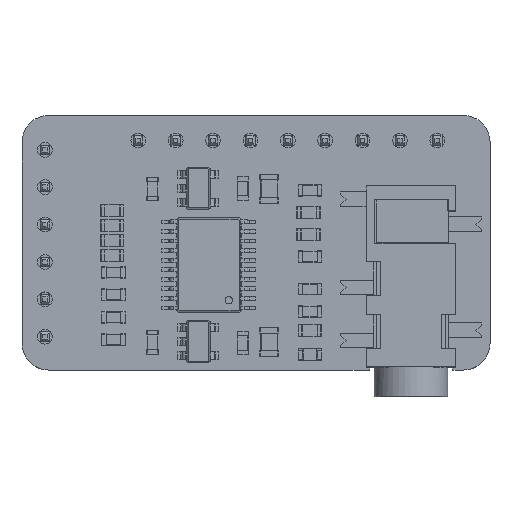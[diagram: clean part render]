
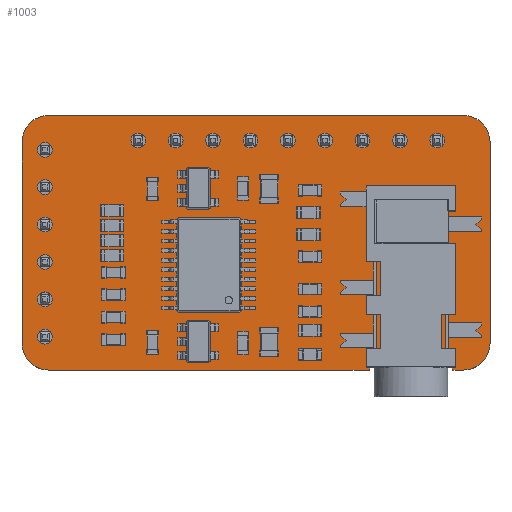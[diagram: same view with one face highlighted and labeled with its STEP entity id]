
A CAD part, top view. The second image highlights one B-rep face of the part: STEP entity #1003.
In plain terms, the highlighted planar face has unit normal (0, 0, 1).
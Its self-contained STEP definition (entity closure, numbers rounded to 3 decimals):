
#67 = VERTEX_POINT('',#68);
#68 = CARTESIAN_POINT('',(164.87,-89.635,0.));
#85 = VERTEX_POINT('',#86);
#86 = CARTESIAN_POINT('',(164.87,-103.335,0.));
#92 = EDGE_CURVE('',#67,#85,#93,.T.);
#93 = LINE('',#94,#95);
#94 = CARTESIAN_POINT('',(164.87,-89.635,0.));
#95 = VECTOR('',#96,1.);
#96 = DIRECTION('',(0.,-1.,0.));
#107 = VERTEX_POINT('',#108);
#108 = CARTESIAN_POINT('',(163.07,-87.835,0.));
#124 = EDGE_CURVE('',#107,#67,#125,.T.);
#125 = CIRCLE('',#126,1.8);
#126 = AXIS2_PLACEMENT_3D('',#127,#128,#129);
#127 = CARTESIAN_POINT('',(163.07,-89.635,0.));
#128 = DIRECTION('',(0.,0.,-1.));
#129 = DIRECTION('',(0.,1.,0.));
#150 = VERTEX_POINT('',#151);
#151 = CARTESIAN_POINT('',(163.07,-105.135,0.));
#157 = EDGE_CURVE('',#85,#150,#158,.T.);
#158 = CIRCLE('',#159,1.8);
#159 = AXIS2_PLACEMENT_3D('',#160,#161,#162);
#160 = CARTESIAN_POINT('',(163.07,-103.335,0.));
#161 = DIRECTION('',(0.,0.,-1.));
#162 = DIRECTION('',(1.,0.,0.));
#173 = VERTEX_POINT('',#174);
#174 = CARTESIAN_POINT('',(134.87,-87.835,0.));
#189 = EDGE_CURVE('',#173,#107,#190,.T.);
#190 = LINE('',#191,#192);
#191 = CARTESIAN_POINT('',(134.87,-87.835,0.));
#192 = VECTOR('',#193,1.);
#193 = DIRECTION('',(1.,0.,0.));
#213 = VERTEX_POINT('',#214);
#214 = CARTESIAN_POINT('',(162.35,-105.135,0.));
#220 = EDGE_CURVE('',#150,#213,#221,.T.);
#221 = LINE('',#222,#223);
#222 = CARTESIAN_POINT('',(163.07,-105.135,0.));
#223 = VECTOR('',#224,1.);
#224 = DIRECTION('',(-1.,0.,0.));
#235 = VERTEX_POINT('',#236);
#236 = CARTESIAN_POINT('',(133.07,-89.635,0.));
#252 = EDGE_CURVE('',#235,#173,#253,.T.);
#253 = CIRCLE('',#254,1.8);
#254 = AXIS2_PLACEMENT_3D('',#255,#256,#257);
#255 = CARTESIAN_POINT('',(134.87,-89.635,0.));
#256 = DIRECTION('',(0.,0.,-1.));
#257 = DIRECTION('',(-1.,0.,0.));
#277 = VERTEX_POINT('',#278);
#278 = CARTESIAN_POINT('',(162.,-104.135,0.));
#284 = EDGE_CURVE('',#213,#277,#285,.T.);
#285 = LINE('',#286,#287);
#286 = CARTESIAN_POINT('',(162.35,-105.135,0.));
#287 = VECTOR('',#288,1.);
#288 = DIRECTION('',(-0.33,0.944,0.));
#299 = VERTEX_POINT('',#300);
#300 = CARTESIAN_POINT('',(133.07,-103.335,0.));
#315 = EDGE_CURVE('',#299,#235,#316,.T.);
#316 = LINE('',#317,#318);
#317 = CARTESIAN_POINT('',(133.07,-103.335,0.));
#318 = VECTOR('',#319,1.);
#319 = DIRECTION('',(0.,1.,0.));
#339 = VERTEX_POINT('',#340);
#340 = CARTESIAN_POINT('',(157.,-104.135,0.));
#346 = EDGE_CURVE('',#277,#339,#347,.T.);
#347 = LINE('',#348,#349);
#348 = CARTESIAN_POINT('',(162.,-104.135,0.));
#349 = VECTOR('',#350,1.);
#350 = DIRECTION('',(-1.,0.,0.));
#361 = VERTEX_POINT('',#362);
#362 = CARTESIAN_POINT('',(134.87,-105.135,0.));
#378 = EDGE_CURVE('',#361,#299,#379,.T.);
#379 = CIRCLE('',#380,1.8);
#380 = AXIS2_PLACEMENT_3D('',#381,#382,#383);
#381 = CARTESIAN_POINT('',(134.87,-103.335,0.));
#382 = DIRECTION('',(0.,0.,-1.));
#383 = DIRECTION('',(0.,-1.,-0.));
#403 = VERTEX_POINT('',#404);
#404 = CARTESIAN_POINT('',(156.65,-105.135,0.));
#410 = EDGE_CURVE('',#339,#403,#411,.T.);
#411 = LINE('',#412,#413);
#412 = CARTESIAN_POINT('',(157.,-104.135,0.));
#413 = VECTOR('',#414,1.);
#414 = DIRECTION('',(-0.33,-0.944,0.));
#432 = EDGE_CURVE('',#403,#361,#433,.T.);
#433 = LINE('',#434,#435);
#434 = CARTESIAN_POINT('',(156.65,-105.135,0.));
#435 = VECTOR('',#436,1.);
#436 = DIRECTION('',(-1.,0.,0.));
#447 = VERTEX_POINT('',#448);
#448 = CARTESIAN_POINT('',(160.05,-101.935,0.));
#464 = EDGE_CURVE('',#447,#447,#465,.T.);
#465 = CIRCLE('',#466,0.55);
#466 = AXIS2_PLACEMENT_3D('',#467,#468,#469);
#467 = CARTESIAN_POINT('',(159.5,-101.935,0.));
#468 = DIRECTION('',(0.,0.,1.));
#469 = DIRECTION('',(1.,0.,-0.));
#480 = VERTEX_POINT('',#481);
#481 = CARTESIAN_POINT('',(135.12,-102.87,0.));
#497 = EDGE_CURVE('',#480,#480,#498,.T.);
#498 = CIRCLE('',#499,0.5);
#499 = AXIS2_PLACEMENT_3D('',#500,#501,#502);
#500 = CARTESIAN_POINT('',(134.62,-102.87,0.));
#501 = DIRECTION('',(0.,0.,1.));
#502 = DIRECTION('',(1.,0.,-0.));
#513 = VERTEX_POINT('',#514);
#514 = CARTESIAN_POINT('',(135.12,-100.33,0.));
#530 = EDGE_CURVE('',#513,#513,#531,.T.);
#531 = CIRCLE('',#532,0.5);
#532 = AXIS2_PLACEMENT_3D('',#533,#534,#535);
#533 = CARTESIAN_POINT('',(134.62,-100.33,0.));
#534 = DIRECTION('',(0.,0.,1.));
#535 = DIRECTION('',(1.,0.,-0.));
#546 = VERTEX_POINT('',#547);
#547 = CARTESIAN_POINT('',(135.12,-97.79,0.));
#563 = EDGE_CURVE('',#546,#546,#564,.T.);
#564 = CIRCLE('',#565,0.5);
#565 = AXIS2_PLACEMENT_3D('',#566,#567,#568);
#566 = CARTESIAN_POINT('',(134.62,-97.79,0.));
#567 = DIRECTION('',(0.,0.,1.));
#568 = DIRECTION('',(1.,0.,-0.));
#579 = VERTEX_POINT('',#580);
#580 = CARTESIAN_POINT('',(160.05,-95.935,0.));
#596 = EDGE_CURVE('',#579,#579,#597,.T.);
#597 = CIRCLE('',#598,0.55);
#598 = AXIS2_PLACEMENT_3D('',#599,#600,#601);
#599 = CARTESIAN_POINT('',(159.5,-95.935,0.));
#600 = DIRECTION('',(0.,0.,1.));
#601 = DIRECTION('',(1.,0.,-0.));
#612 = VERTEX_POINT('',#613);
#613 = CARTESIAN_POINT('',(161.79,-89.535,0.));
#629 = EDGE_CURVE('',#612,#612,#630,.T.);
#630 = CIRCLE('',#631,0.5);
#631 = AXIS2_PLACEMENT_3D('',#632,#633,#634);
#632 = CARTESIAN_POINT('',(161.29,-89.535,0.));
#633 = DIRECTION('',(0.,0.,1.));
#634 = DIRECTION('',(1.,0.,-0.));
#645 = VERTEX_POINT('',#646);
#646 = CARTESIAN_POINT('',(159.25,-89.535,0.));
#662 = EDGE_CURVE('',#645,#645,#663,.T.);
#663 = CIRCLE('',#664,0.5);
#664 = AXIS2_PLACEMENT_3D('',#665,#666,#667);
#665 = CARTESIAN_POINT('',(158.75,-89.535,0.));
#666 = DIRECTION('',(0.,0.,1.));
#667 = DIRECTION('',(1.,0.,-0.));
#678 = VERTEX_POINT('',#679);
#679 = CARTESIAN_POINT('',(156.71,-89.535,0.));
#695 = EDGE_CURVE('',#678,#678,#696,.T.);
#696 = CIRCLE('',#697,0.5);
#697 = AXIS2_PLACEMENT_3D('',#698,#699,#700);
#698 = CARTESIAN_POINT('',(156.21,-89.535,0.));
#699 = DIRECTION('',(0.,0.,1.));
#700 = DIRECTION('',(1.,0.,-0.));
#711 = VERTEX_POINT('',#712);
#712 = CARTESIAN_POINT('',(154.17,-89.535,0.));
#728 = EDGE_CURVE('',#711,#711,#729,.T.);
#729 = CIRCLE('',#730,0.5);
#730 = AXIS2_PLACEMENT_3D('',#731,#732,#733);
#731 = CARTESIAN_POINT('',(153.67,-89.535,0.));
#732 = DIRECTION('',(0.,0.,1.));
#733 = DIRECTION('',(1.,0.,-0.));
#744 = VERTEX_POINT('',#745);
#745 = CARTESIAN_POINT('',(151.63,-89.535,0.));
#761 = EDGE_CURVE('',#744,#744,#762,.T.);
#762 = CIRCLE('',#763,0.5);
#763 = AXIS2_PLACEMENT_3D('',#764,#765,#766);
#764 = CARTESIAN_POINT('',(151.13,-89.535,0.));
#765 = DIRECTION('',(0.,0.,1.));
#766 = DIRECTION('',(1.,0.,-0.));
#777 = VERTEX_POINT('',#778);
#778 = CARTESIAN_POINT('',(149.09,-89.535,0.));
#794 = EDGE_CURVE('',#777,#777,#795,.T.);
#795 = CIRCLE('',#796,0.5);
#796 = AXIS2_PLACEMENT_3D('',#797,#798,#799);
#797 = CARTESIAN_POINT('',(148.59,-89.535,0.));
#798 = DIRECTION('',(0.,0.,1.));
#799 = DIRECTION('',(1.,0.,-0.));
#810 = VERTEX_POINT('',#811);
#811 = CARTESIAN_POINT('',(135.12,-95.25,0.));
#827 = EDGE_CURVE('',#810,#810,#828,.T.);
#828 = CIRCLE('',#829,0.5);
#829 = AXIS2_PLACEMENT_3D('',#830,#831,#832);
#830 = CARTESIAN_POINT('',(134.62,-95.25,0.));
#831 = DIRECTION('',(0.,0.,1.));
#832 = DIRECTION('',(1.,0.,-0.));
#843 = VERTEX_POINT('',#844);
#844 = CARTESIAN_POINT('',(135.12,-92.71,0.));
#860 = EDGE_CURVE('',#843,#843,#861,.T.);
#861 = CIRCLE('',#862,0.5);
#862 = AXIS2_PLACEMENT_3D('',#863,#864,#865);
#863 = CARTESIAN_POINT('',(134.62,-92.71,0.));
#864 = DIRECTION('',(0.,0.,1.));
#865 = DIRECTION('',(1.,0.,-0.));
#876 = VERTEX_POINT('',#877);
#877 = CARTESIAN_POINT('',(146.55,-89.535,0.));
#893 = EDGE_CURVE('',#876,#876,#894,.T.);
#894 = CIRCLE('',#895,0.5);
#895 = AXIS2_PLACEMENT_3D('',#896,#897,#898);
#896 = CARTESIAN_POINT('',(146.05,-89.535,0.));
#897 = DIRECTION('',(0.,0.,1.));
#898 = DIRECTION('',(1.,0.,-0.));
#909 = VERTEX_POINT('',#910);
#910 = CARTESIAN_POINT('',(144.01,-89.535,0.));
#926 = EDGE_CURVE('',#909,#909,#927,.T.);
#927 = CIRCLE('',#928,0.5);
#928 = AXIS2_PLACEMENT_3D('',#929,#930,#931);
#929 = CARTESIAN_POINT('',(143.51,-89.535,0.));
#930 = DIRECTION('',(0.,0.,1.));
#931 = DIRECTION('',(1.,0.,-0.));
#942 = VERTEX_POINT('',#943);
#943 = CARTESIAN_POINT('',(141.47,-89.535,0.));
#959 = EDGE_CURVE('',#942,#942,#960,.T.);
#960 = CIRCLE('',#961,0.5);
#961 = AXIS2_PLACEMENT_3D('',#962,#963,#964);
#962 = CARTESIAN_POINT('',(140.97,-89.535,0.));
#963 = DIRECTION('',(0.,0.,1.));
#964 = DIRECTION('',(1.,0.,-0.));
#975 = VERTEX_POINT('',#976);
#976 = CARTESIAN_POINT('',(135.12,-90.17,0.));
#992 = EDGE_CURVE('',#975,#975,#993,.T.);
#993 = CIRCLE('',#994,0.5);
#994 = AXIS2_PLACEMENT_3D('',#995,#996,#997);
#995 = CARTESIAN_POINT('',(134.62,-90.17,0.));
#996 = DIRECTION('',(0.,0.,1.));
#997 = DIRECTION('',(1.,0.,-0.));
#1003 = ADVANCED_FACE('',(#1004,#1018,#1021,#1024,#1027,#1030,#1033,
    #1036,#1039,#1042,#1045,#1048,#1051,#1054,#1057,#1060,#1063,#1066),
  #1069,.F.);
#1004 = FACE_BOUND('',#1005,.F.);
#1005 = EDGE_LOOP('',(#1006,#1007,#1008,#1009,#1010,#1011,#1012,#1013,
    #1014,#1015,#1016,#1017));
#1006 = ORIENTED_EDGE('',*,*,#92,.T.);
#1007 = ORIENTED_EDGE('',*,*,#157,.T.);
#1008 = ORIENTED_EDGE('',*,*,#220,.T.);
#1009 = ORIENTED_EDGE('',*,*,#284,.T.);
#1010 = ORIENTED_EDGE('',*,*,#346,.T.);
#1011 = ORIENTED_EDGE('',*,*,#410,.T.);
#1012 = ORIENTED_EDGE('',*,*,#432,.T.);
#1013 = ORIENTED_EDGE('',*,*,#378,.T.);
#1014 = ORIENTED_EDGE('',*,*,#315,.T.);
#1015 = ORIENTED_EDGE('',*,*,#252,.T.);
#1016 = ORIENTED_EDGE('',*,*,#189,.T.);
#1017 = ORIENTED_EDGE('',*,*,#124,.T.);
#1018 = FACE_BOUND('',#1019,.F.);
#1019 = EDGE_LOOP('',(#1020));
#1020 = ORIENTED_EDGE('',*,*,#464,.T.);
#1021 = FACE_BOUND('',#1022,.F.);
#1022 = EDGE_LOOP('',(#1023));
#1023 = ORIENTED_EDGE('',*,*,#497,.T.);
#1024 = FACE_BOUND('',#1025,.F.);
#1025 = EDGE_LOOP('',(#1026));
#1026 = ORIENTED_EDGE('',*,*,#530,.T.);
#1027 = FACE_BOUND('',#1028,.F.);
#1028 = EDGE_LOOP('',(#1029));
#1029 = ORIENTED_EDGE('',*,*,#563,.T.);
#1030 = FACE_BOUND('',#1031,.F.);
#1031 = EDGE_LOOP('',(#1032));
#1032 = ORIENTED_EDGE('',*,*,#596,.T.);
#1033 = FACE_BOUND('',#1034,.F.);
#1034 = EDGE_LOOP('',(#1035));
#1035 = ORIENTED_EDGE('',*,*,#629,.T.);
#1036 = FACE_BOUND('',#1037,.F.);
#1037 = EDGE_LOOP('',(#1038));
#1038 = ORIENTED_EDGE('',*,*,#662,.T.);
#1039 = FACE_BOUND('',#1040,.F.);
#1040 = EDGE_LOOP('',(#1041));
#1041 = ORIENTED_EDGE('',*,*,#695,.T.);
#1042 = FACE_BOUND('',#1043,.F.);
#1043 = EDGE_LOOP('',(#1044));
#1044 = ORIENTED_EDGE('',*,*,#728,.T.);
#1045 = FACE_BOUND('',#1046,.F.);
#1046 = EDGE_LOOP('',(#1047));
#1047 = ORIENTED_EDGE('',*,*,#761,.T.);
#1048 = FACE_BOUND('',#1049,.F.);
#1049 = EDGE_LOOP('',(#1050));
#1050 = ORIENTED_EDGE('',*,*,#794,.T.);
#1051 = FACE_BOUND('',#1052,.F.);
#1052 = EDGE_LOOP('',(#1053));
#1053 = ORIENTED_EDGE('',*,*,#827,.T.);
#1054 = FACE_BOUND('',#1055,.F.);
#1055 = EDGE_LOOP('',(#1056));
#1056 = ORIENTED_EDGE('',*,*,#860,.T.);
#1057 = FACE_BOUND('',#1058,.F.);
#1058 = EDGE_LOOP('',(#1059));
#1059 = ORIENTED_EDGE('',*,*,#893,.T.);
#1060 = FACE_BOUND('',#1061,.F.);
#1061 = EDGE_LOOP('',(#1062));
#1062 = ORIENTED_EDGE('',*,*,#926,.T.);
#1063 = FACE_BOUND('',#1064,.F.);
#1064 = EDGE_LOOP('',(#1065));
#1065 = ORIENTED_EDGE('',*,*,#959,.T.);
#1066 = FACE_BOUND('',#1067,.F.);
#1067 = EDGE_LOOP('',(#1068));
#1068 = ORIENTED_EDGE('',*,*,#992,.T.);
#1069 = PLANE('',#1070);
#1070 = AXIS2_PLACEMENT_3D('',#1071,#1072,#1073);
#1071 = CARTESIAN_POINT('',(149.125,-96.549,0.));
#1072 = DIRECTION('',(-0.,-0.,-1.));
#1073 = DIRECTION('',(-1.,0.,0.));
